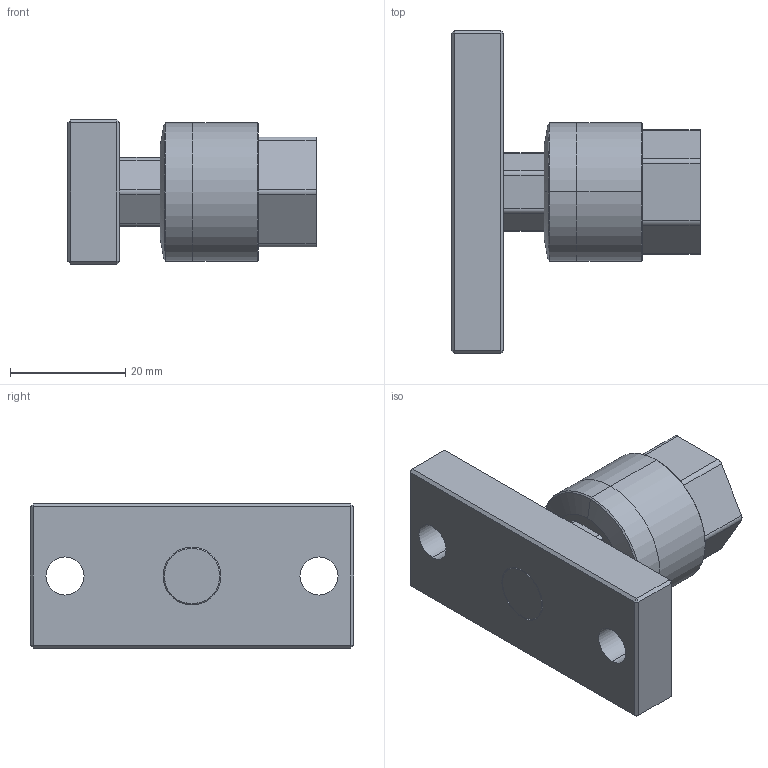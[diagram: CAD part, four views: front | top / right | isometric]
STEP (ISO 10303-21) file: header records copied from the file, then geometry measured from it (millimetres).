
FILE_DESCRIPTION (( 'STEP AP203' ), '1' );
FILE_NAME ('FCM10-1.25-F.STEP', '2016-04-14T01:54:11', ( '' ), ( '' ), 'SwSTEP 2.0', 'SolidWorks 2014', '' );
FILE_SCHEMA (( 'CONFIG_CONTROL_DESIGN' ));
Length unit declared in the file: millimetre
Products named in the file (3): FCM10-1.25(F); FCM10-1.25-F; FCM10-F
Assembly tree (2 placements, depth 2):
  FCM10-1.25-F
    FCM10-1.25(F)
    FCM10-F
Bounding box: 43 x 56 x 25 mm (x, y, z)
Volume: 22620.7 mm3; surface area: 8248.7 mm2
Topology: 2 solids, 2 shells, 79 faces, 180 edges, 107 vertices
Faces by surface type: plane 43, cylinder 26, cone 10
Entity records: 2487 total; most frequent: DIRECTION 404, CARTESIAN_POINT 369, ORIENTED_EDGE 356, EDGE_CURVE 178, AXIS2_PLACEMENT_3D 142, LINE 120, VECTOR 120, VERTEX_POINT 107
